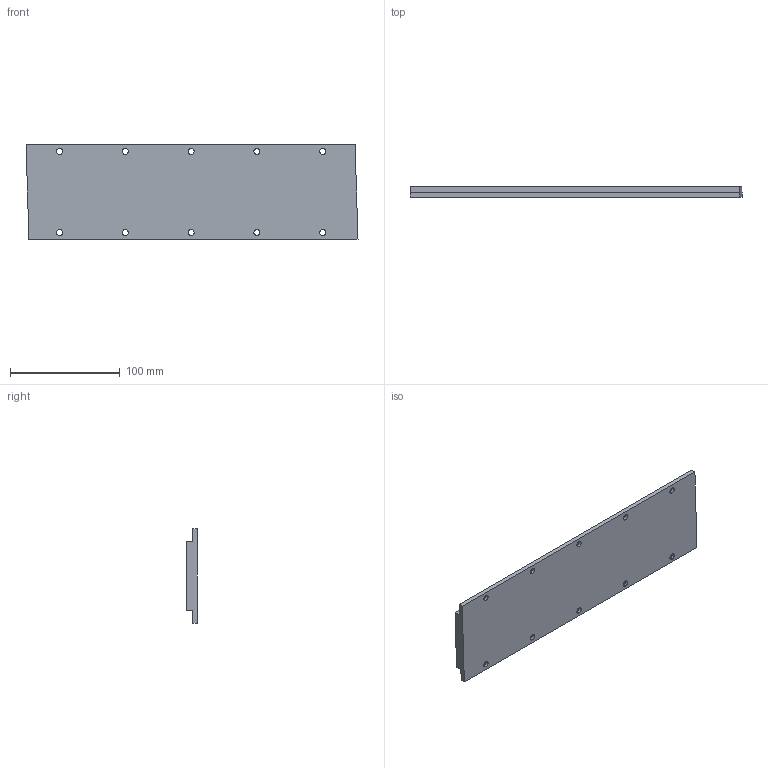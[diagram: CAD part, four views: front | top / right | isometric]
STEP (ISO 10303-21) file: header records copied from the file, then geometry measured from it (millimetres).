
FILE_DESCRIPTION (( 'STEP AP214' ), '1' );
FILE_NAME ('LMSA2S3E.STEP', '2013-07-17T08:19:37', ( ' ' ), ( '' ), 'SwSTEP 2.0', 'SolidWorks 2010', '' );
FILE_SCHEMA (( 'AUTOMOTIVE_DESIGN' ));
Length unit declared in the file: millimetre
Products named in the file (1): LMSA2S3E
Bounding box: 302.7 x 9.7 x 86 mm (x, y, z)
Volume: 208143 mm3; surface area: 59270.5 mm2
Topology: 1 solids, 1 shells, 87 faces, 219 edges, 146 vertices
Faces by surface type: cylinder 40, plane 36, bspline 11
Entity records: 3497 total; most frequent: CARTESIAN_POINT 1320, ORIENTED_EDGE 438, DIRECTION 431, EDGE_CURVE 219, AXIS2_PLACEMENT_3D 157, VERTEX_POINT 146, EDGE_LOOP 119, VECTOR 117
